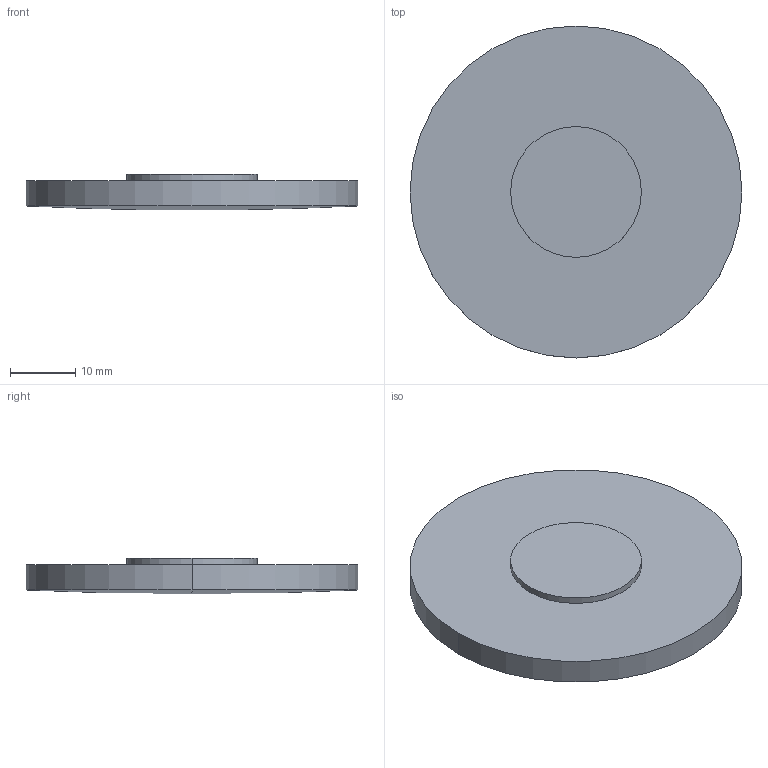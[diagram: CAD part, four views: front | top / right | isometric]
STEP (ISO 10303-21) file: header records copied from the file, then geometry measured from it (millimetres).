
FILE_DESCRIPTION(('STEP AP214'),'1');
FILE_NAME('LL-51-760.STEP','2020-03-09T17:41:18',(' '),(' '),'Spatial InterOp 3D',' ',' ');
FILE_SCHEMA(('AUTOMOTIVE_DESIGN { 1 0 10303 214 1 1 1 1 }'));
Length unit declared in the file: millimetre
Products named in the file (1): 1
Bounding box: 50.8 x 50.8 x 5.5 mm (x, y, z)
Volume: 8817.8 mm3; surface area: 5366.9 mm2
Topology: 2 solids, 2 shells, 9 faces, 16 edges, 9 vertices
Faces by surface type: cylinder 4, plane 3, sphere 2
Entity records: 229 total; most frequent: DIRECTION 46, CARTESIAN_POINT 34, ORIENTED_EDGE 28, AXIS2_PLACEMENT_3D 21, EDGE_CURVE 14, CIRCLE 10, ADVANCED_FACE 9, FACE_OUTER_BOUND 9
